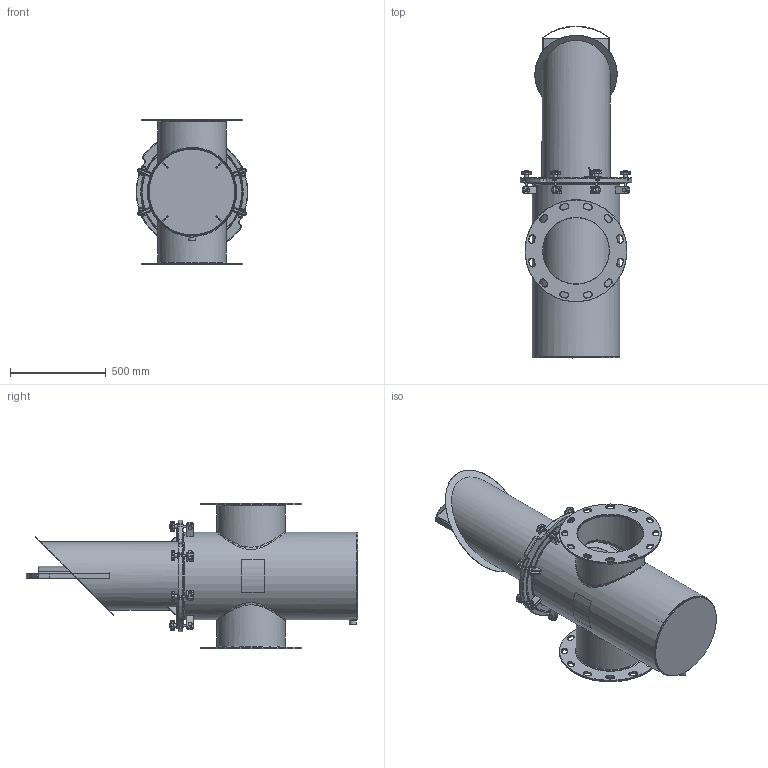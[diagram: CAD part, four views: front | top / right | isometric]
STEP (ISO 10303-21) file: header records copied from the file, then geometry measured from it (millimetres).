
FILE_DESCRIPTION(/* description */ ('18" STRAINER BODY'),/* implementation_level */ '2;1');
FILE_NAME(/* name */ 'C:\Users\r.kommineni.ext\Desktop\NB\CAD\Workspace\SS Straight\Guardian SS H&L Strainer (Inch)_CLEARANCE VOLUME\STRAINER H&L GUARDIAN 14(_DQ).stp',/* time_stamp */ '2017-06-09T13:08:22-04:00',/* author */ ('r.kommineni.ext'),/* organization */ (''),/* preprocessor_version */ 'ST-DEVELOPER v16.1',/* originating_system */ 'Autodesk Inventor 2016',/* authorisation */ '');
FILE_SCHEMA (('CONFIG_CONTROL_DESIGN'));
Length unit declared in the file: inch
Products named in the file (35): NBSSBODY14_Welds; FOR NBSSBODY14; FOR 18 DIA STRAINER BODY; FOR 18 DIA STRAINER BODY_1; 18 Body; ConcentricPipe-14(_DQ) - M; 14(_DQ); For 18 Body; ASME B16.11 Half Coupling Threaded - Class 3000 3_4 x 3_4; 18 Body_1; NBSSBODY14; 150NBCVR18R2; 150NBGSK18R1; Perforated Basket 18in; Bride (Ring) 18in; Baffle 18in; Handle 18in; Bottom Strainer 18in; BRACESTRCVR18_Welds; BRACE (BASE) FOR 18 BODY; BRACE (PROJ) FOR 18 BODY; Bumper; BRACESTRCVR18; Nut- 1_2  UNC; Bolt-1_2 x 1 1_2  UNC; EyeBolt; Washer; Knob M10; Securing Assembly with Brace; Securing Assembly without Brace; Label for 18 inch (Right); Label for 18 inch (Left); NBBSK14T316_clearance; NBBSK14T316_clearance_1; STRAINER H&L GUARDIAN 14(_DQ)
Assembly tree (70 placements, depth 3):
  STRAINER H&L GUARDIAN 14(_DQ)
    NBSSBODY14
      NBSSBODY14_Welds
      FOR NBSSBODY14
      FOR 18 DIA STRAINER BODY
      FOR 18 DIA STRAINER BODY_1
      18 Body  x4
      ConcentricPipe-14(_DQ) - M  x2
      14(_DQ)  x2
      For 18 Body
      ASME B16.11 Half Coupling Threaded - Class 3000 3_4 x 3_4
      18 Body_1  x16
    150NBCVR18R2
    150NBGSK18R1
    NBBSK14T316_clearance_1
      Perforated Basket 18in
      Bride (Ring) 18in
      Baffle 18in
      Handle 18in
      Bottom Strainer 18in
      NBBSK14T316_clearance
    BRACESTRCVR18
      BRACESTRCVR18_Welds
      BRACE (BASE) FOR 18 BODY
      BRACE (PROJ) FOR 18 BODY
      Bumper  x6
    Securing Assembly with Brace  x2
      Nut- 1_2  UNC
      Bolt-1_2 x 1 1_2  UNC
      EyeBolt
      Washer
      Knob M10
    Securing Assembly without Brace  x6
      Nut- 1_2  UNC
      Bolt-1_2 x 1 1_2  UNC
      EyeBolt
      Washer
      Knob M10
    Label for 18 inch (Right)
    Label for 18 inch (Left)
Bounding box: 582.69 x 1733.55 x 762 mm (x, y, z)
Volume: 21204754.2 mm3; surface area: 8527895.8 mm2
Topology: 110 solids, 113 shells, 2389 faces, 5321 edges, 3132 vertices
Faces by surface type: cylinder 858, plane 660, torus 422, cone 189, sphere 142, bspline 118
Full cylindrical faces by diameter (mm): 3.175 x11, 6.35 x1, 8.382 x8, 9.525 x16, 10.592 x8, 12.7 x8, 15.875 x16, 19 x16, 19.05 x8, 22.8 x1, 22.809 x1, 31.75 x8, 35.052 x1, 346.075 x2, 350.042 x4, 352.425 x2, 355.6 x8, 358.14 x1, 444.5 x3, 450.85 x2, 457.2 x3, 463.55 x1, 520.7 x1, 527.05 x1, 533.4 x2, 536.575 x1
Entity records: 39423 total; most frequent: CARTESIAN_POINT 14812, DIRECTION 5320, ORIENTED_EDGE 4431, EDGE_CURVE 2240, AXIS2_PLACEMENT_3D 2189, VERTEX_POINT 1393, EDGE_LOOP 1200, ADVANCED_FACE 1029
